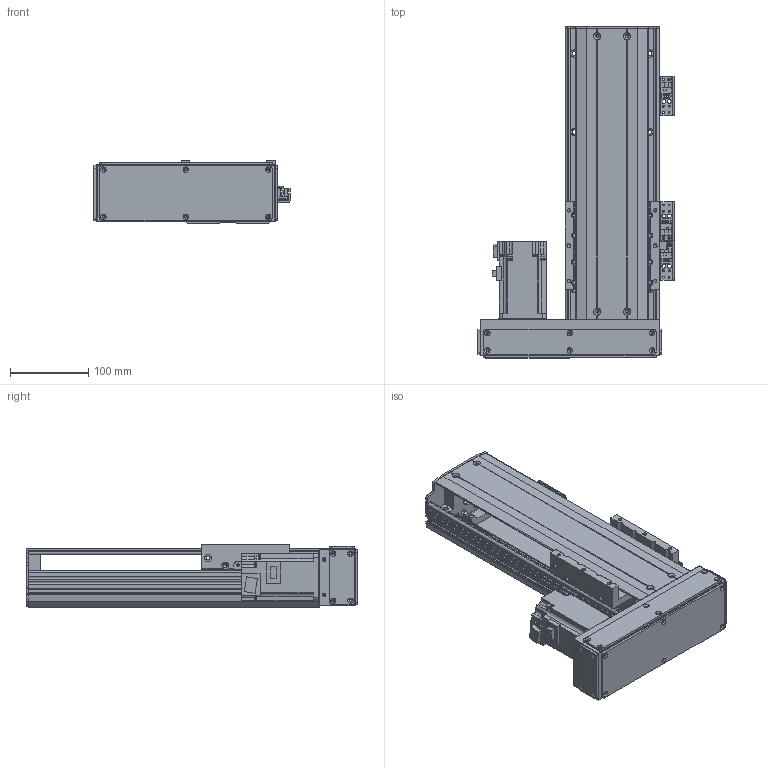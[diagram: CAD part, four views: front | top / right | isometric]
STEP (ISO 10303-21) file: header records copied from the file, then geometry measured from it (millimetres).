
FILE_DESCRIPTION(/* description */ ('MANUFACTURE'),/* implementation_level */ '2;1');
FILE_NAME(/* name */ '\\192.168.0.160\disk1\HAN SHIN Master\B-설계부문\C-표준\B-2024년\BC02-표준도면\+로봇 개선표준도면\홈페이지 표준 도면\홈페이지 최종 작업 폴더\3D\HR\HR120\HR120병렬\좌병렬\HR120-L40-N-0200-R10.stp',/* time_stamp */ '2025-01-20T17:36:38+09:00',/* author */ ('user'),/* organization */ (''),/* preprocessor_version */ 'ST-DEVELOPER v18.1',/* originating_system */ 'Autodesk Inventor 2022',/* authorisation */ 'LIP');
FILE_SCHEMA (('CONFIG_CONTROL_DESIGN'));
Products named in the file (19): HG120-L40-N-0500-R10; HR120 S BASE; HR(HG) 120,130 FRONT BLOCK; HR(HG) 120,130 FRONT BLOCK_1; HR120 FRONT COVER; HG5UPCOV003; HR120 SENSOR DOG; HG120 TABLE-N; HR120 STOPPER; HR120 LR MOTOR PLATE (400W)-사출; MOTOR PLATE - 200W; hg-kr43_; 화살표; HR120 LR BELT COVER; HR160 ACRYL COVER - 1; HR160 ACRYL COVER - 1_1; HR160 ACRYL COVER - 1_2; SENSOR BRK(EE-SX674A); EE_SX674A
Assembly tree (24 placements, depth 2):
  HG120-L40-N-0500-R10
    HR120 S BASE
    HR(HG) 120,130 FRONT BLOCK
    HR(HG) 120,130 FRONT BLOCK_1
    HR120 FRONT COVER
    SENSOR BRK(EE-SX674A)  x3
    HG5UPCOV003
    HR120 SENSOR DOG
    HG120 TABLE-N
    EE_SX674A  x3
    HR120 STOPPER
    HR120 LR MOTOR PLATE (400W)-사출
    MOTOR PLATE - 200W
    hg-kr43_
    화살표  x2
    HR120 LR BELT COVER
    HR160 ACRYL COVER - 1
    HR160 ACRYL COVER - 1_1
    HR160 ACRYL COVER - 1_2  x2
Bounding box: 250 x 423 x 80 mm (x, y, z)
Volume: 1680489.1 mm3; surface area: 664059.2 mm2
Topology: 24 solids, 24 shells, 2961 faces, 8374 edges, 5535 vertices
Faces by surface type: plane 2177, cylinder 660, cone 124
Full cylindrical faces by diameter (mm): 2.459 x50, 3 x4, 3.242 x38, 3.4 x20, 3.5 x6, 4.134 x34, 4.5 x56, 4.917 x6, 5 x26, 5.5 x23, 5.8 x4, 5.9 x8, 6 x4, 6.6 x2, 7 x4, 7.5 x16, 8 x4, 9 x6, 9.5 x11, 14 x1, 17 x1, 20 x1, 22 x1, 24 x1, 28 x1, 32 x2, 33.7 x1, 50 x2
Entity records: 92068 total; most frequent: CARTESIAN_POINT 17496, ORIENTED_EDGE 15536, DIRECTION 14503, EDGE_CURVE 7768, LINE 6327, VECTOR 6327, VERTEX_POINT 5187, AXIS2_PLACEMENT_3D 4088
